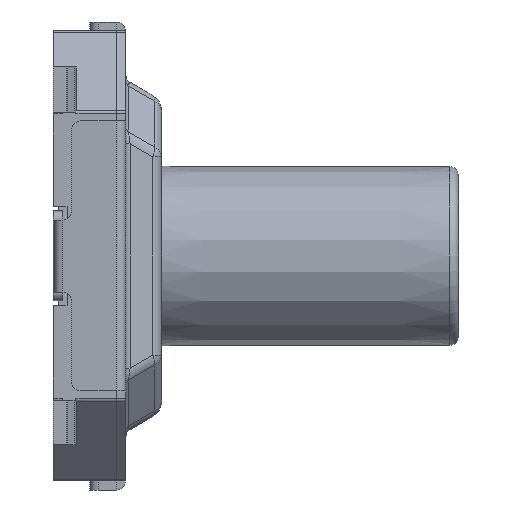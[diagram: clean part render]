
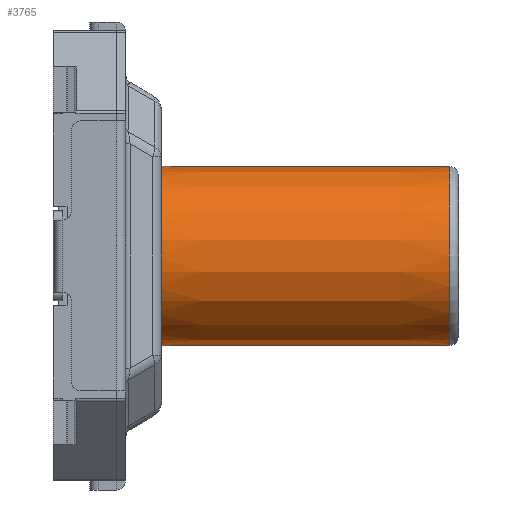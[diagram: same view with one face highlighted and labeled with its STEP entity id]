
A CAD part, left-side view. The second image highlights one B-rep face of the part: STEP entity #3765.
In plain terms, the highlighted conical face has half-angle 0.1 degrees and reference radius 0.996 mm.
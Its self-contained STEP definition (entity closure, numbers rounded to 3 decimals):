
#876=DIRECTION('',(0.,1.,-0.002));
#877=VECTOR('',#876,3.3);
#878=CARTESIAN_POINT('',(0.,-3.7,
-0.994));
#879=LINE('',#878,#877);
#883=CARTESIAN_POINT('',(0.,-0.4,0.));
#884=DIRECTION('',(0.,-1.,0.));
#885=DIRECTION('',(0.,0.,1.));
#886=AXIS2_PLACEMENT_3D('',#883,#884,#885);
#891=CARTESIAN_POINT('',(0.,-3.7,0.));
#892=DIRECTION('',(0.,1.,0.));
#893=DIRECTION('',(0.,0.,-1.));
#894=AXIS2_PLACEMENT_3D('',#891,#892,#893);
#907=DIRECTION('',(0.,-1.,-0.002));
#908=VECTOR('',#907,3.3);
#909=CARTESIAN_POINT('',(0.,-0.4,0.999));
#910=LINE('',#909,#908);
#2933=CARTESIAN_POINT('',(0.,-0.4,0.999));
#2934=CARTESIAN_POINT('',(0.,-0.4,-0.999));
#2935=VERTEX_POINT('',#2933);
#2936=VERTEX_POINT('',#2934);
#2937=CARTESIAN_POINT('',(0.,-3.7,
-0.994));
#2938=VERTEX_POINT('',#2937);
#2939=CARTESIAN_POINT('',(0.,-3.7,0.994));
#2940=VERTEX_POINT('',#2939);
#3751=CARTESIAN_POINT('',(0.,-2.05,0.));
#3752=DIRECTION('',(0.,1.,0.));
#3753=DIRECTION('',(0.,0.,-1.));
#3754=AXIS2_PLACEMENT_3D('',#3751,#3752,#3753);
#3755=CONICAL_SURFACE('',#3754,0.996,0.1);
#3757=ORIENTED_EDGE('',*,*,#3756,.T.);
#3758=ORIENTED_EDGE('',*,*,#3744,.F.);
#3760=ORIENTED_EDGE('',*,*,#3759,.T.);
#3762=ORIENTED_EDGE('',*,*,#3761,.F.);
#3763=EDGE_LOOP('',(#3757,#3758,#3760,#3762));
#3764=FACE_OUTER_BOUND('',#3763,.F.);
#887=CIRCLE('',#886,0.999);
#895=CIRCLE('',#894,0.994);
#3744=EDGE_CURVE('',#2935,#2936,#887,.T.);
#3756=EDGE_CURVE('',#2938,#2936,#879,.T.);
#3759=EDGE_CURVE('',#2935,#2940,#910,.T.);
#3761=EDGE_CURVE('',#2938,#2940,#895,.T.);
#3765=ADVANCED_FACE('',(#3764),#3755,.T.);
